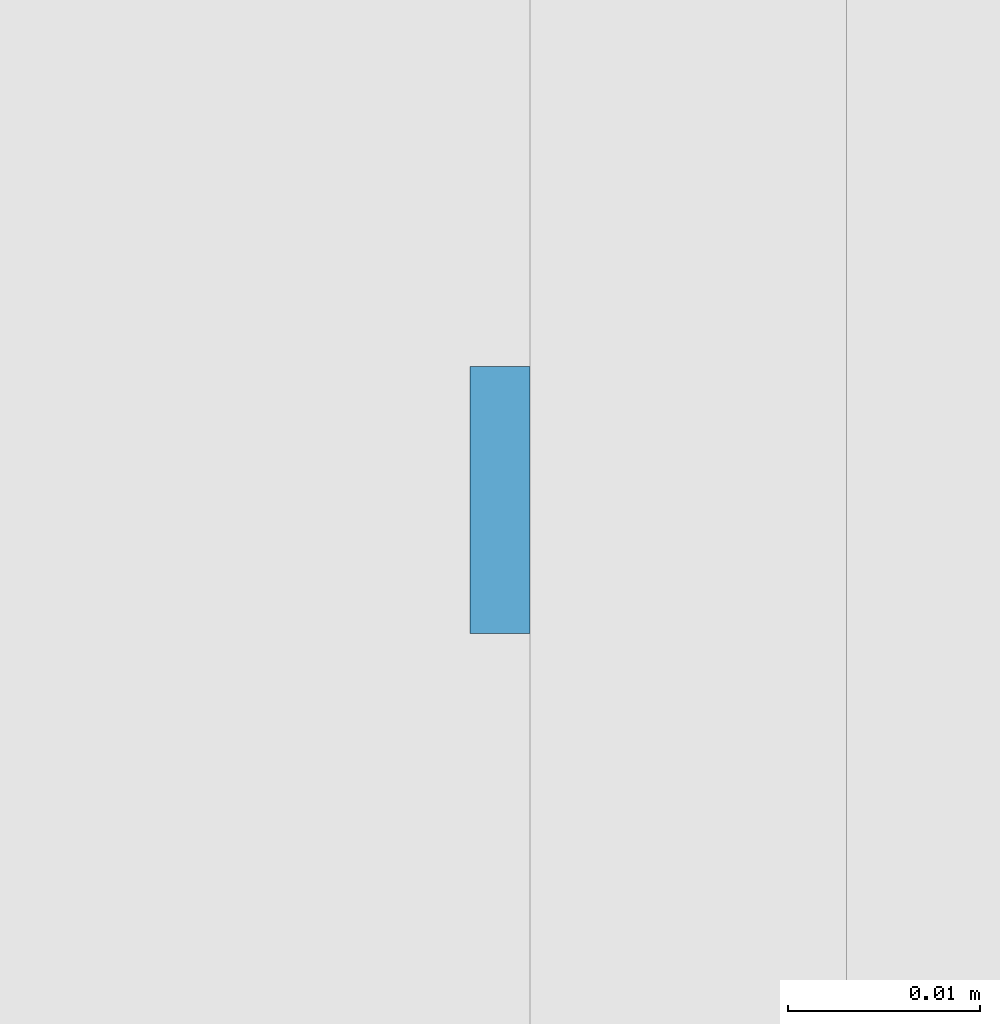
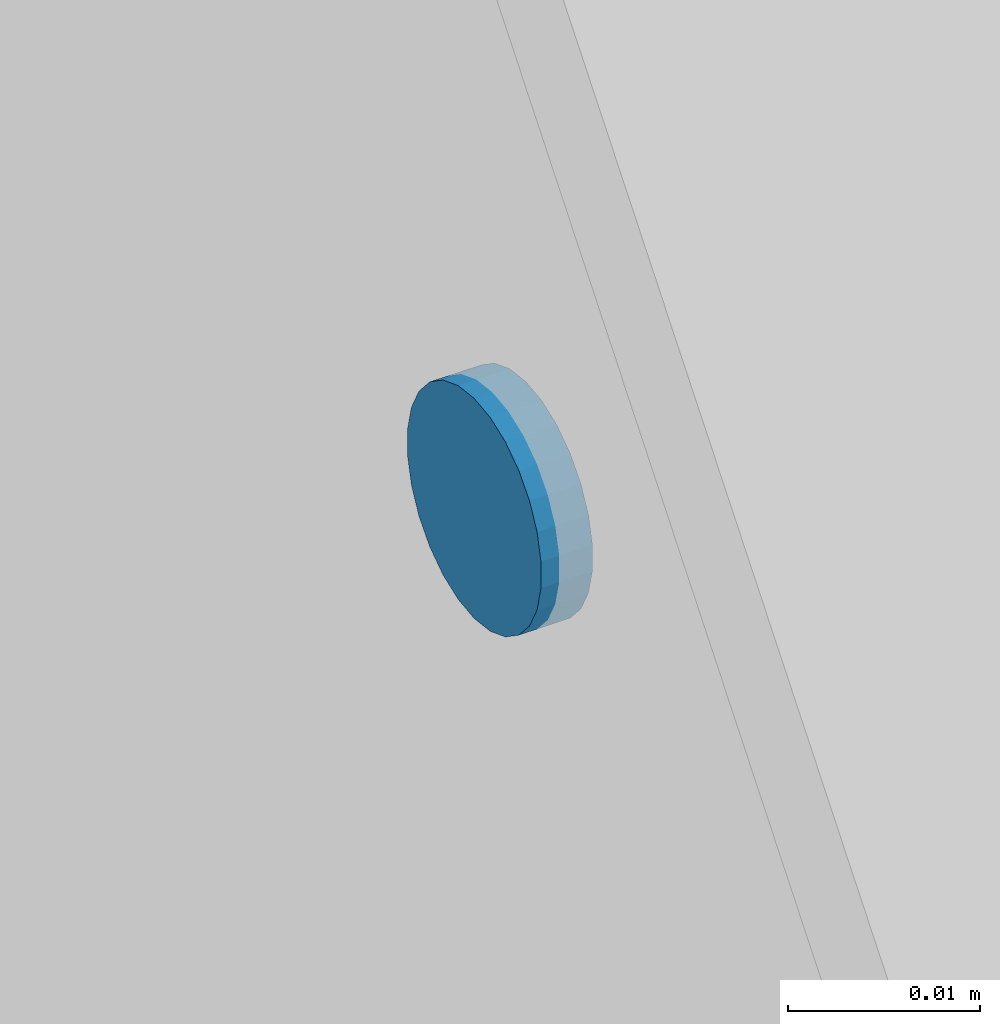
# One storey, part 252 of 362: 1 mechanical fastener.
"""IFC2X3 building model written with IfcOpenShell, lengths in millimetres."""

import ifcopenshell
import ifcopenshell.guid

model = None  # the IFC model being written
_history = None  # IfcOwnerHistory: only IFC2X3 demands one
_inside = {}  # id of a spatial element -> (the spatial element, [elements in it])
_under = {}  # id of a project, library or spatial element -> (it, [spatial elements below it])
_declared = {}  # id of a project -> (the project, [libraries it declares])
_typed = {}  # id of a type object -> (the type object, [elements of that type])
_made_of = {}  # id of a material, layer set ... -> (it, [elements and type objects made of it])


def new_model(schema):
    """Start an empty IFC model of exactly this schema.

    Asked for "IFC4X3", IfcOpenShell would pick the latest addendum, in which some entities
    have other attributes; the version numbers below select the first issue.
    IFC2X3 requires an IfcOwnerHistory on every rooted entity: one is made here for all.
    """
    global model, _history
    if schema == "IFC4X3":
        model = ifcopenshell.file(schema_version=(4, 3, 0, 0))
    else:
        model = ifcopenshell.file(schema=schema)
    _inside.clear()
    _under.clear()
    _declared.clear()
    _typed.clear()
    _made_of.clear()
    _history = None
    if model.schema == "IFC2X3":
        org = make("IfcOrganization", Name="unknown")
        user = make(
            "IfcPersonAndOrganization",
            ThePerson=make("IfcPerson", FamilyName="unknown"),
            TheOrganization=org,
        )
        app = make(
            "IfcApplication",
            ApplicationDeveloper=org,
            Version="unknown",
            ApplicationFullName="unknown",
            ApplicationIdentifier="unknown",
        )
        _history = make(
            "IfcOwnerHistory",
            OwningUser=user,
            OwningApplication=app,
            ChangeAction="ADDED",
            CreationDate=0,
        )
    return model


def make(cls, **values):
    """One entity of the class cls with the attributes given. An attribute that is None is left unset."""
    return model.create_entity(
        cls, **{name: value for name, value in values.items() if value is not None}
    )


def rooted(cls, **values):
    """An entity with a GlobalId (a new one), such as an element, a storey or a relation."""
    return make(cls, GlobalId=ifcopenshell.guid.new(), OwnerHistory=_history, **values)


def si_unit(unit_type, name, prefix=None):
    """IfcSIUnit, for example si_unit("LENGTHUNIT", "METRE", prefix="MILLI")."""
    return make("IfcSIUnit", UnitType=unit_type, Prefix=prefix, Name=name)


def assignment(units):
    """IfcUnitAssignment: the units of a project."""
    return None if units is None else make("IfcUnitAssignment", Units=units)


def point(xyz):
    """IfcCartesianPoint."""
    return None if xyz is None else make("IfcCartesianPoint", Coordinates=xyz)


def direction(xyz):
    """IfcDirection."""
    return None if xyz is None else make("IfcDirection", DirectionRatios=xyz)


def frame(location, z_axis=None, x_axis=None):
    """IfcAxis2Placement3D, a coordinate frame: its origin and axes. An axis left out is left unset."""
    return make(
        "IfcAxis2Placement3D",
        Location=point(location),
        Axis=direction(z_axis),
        RefDirection=direction(x_axis),
    )


def frame_2d(location, x_axis=None):
    """IfcAxis2Placement2D, a coordinate frame in the plane: its origin and x axis."""
    return make(
        "IfcAxis2Placement2D", Location=point(location), RefDirection=direction(x_axis)
    )


def origin_with_axes():
    """The frame at (0, 0, 0) with the z axis (0, 0, 1) and the x axis (1, 0, 0) written out."""
    return frame((0.0, 0.0, 0.0), z_axis=(0.0, 0.0, 1.0), x_axis=(1.0, 0.0, 0.0))


def origin_2d_with_axis():
    """The frame at (0, 0) in the plane with the x axis (1, 0) written out."""
    return frame_2d((0.0, 0.0), x_axis=(1.0, 0.0))


def place(relative_to, where):
    """IfcLocalPlacement: puts the frame where relative to a parent placement (None: the world)."""
    return make(
        "IfcLocalPlacement", PlacementRelTo=relative_to, RelativePlacement=where
    )


def context(
    kind, dimensions, precision=None, world=None, true_north=None, identifier=None
):
    """IfcGeometricRepresentationContext, for example the 3D "Model" context."""
    return make(
        "IfcGeometricRepresentationContext",
        ContextIdentifier=identifier,
        ContextType=kind,
        CoordinateSpaceDimension=dimensions,
        Precision=precision,
        WorldCoordinateSystem=world,
        TrueNorth=true_north,
    )


def subcontext(parent, identifier, kind, view, scale=None):
    """IfcGeometricRepresentationSubContext, for example "Body" below "Model"."""
    return make(
        "IfcGeometricRepresentationSubContext",
        ContextIdentifier=identifier,
        ContextType=kind,
        ParentContext=parent,
        TargetScale=scale,
        TargetView=view,
    )


def project(units=None, contexts=None):
    """IfcProject with its units and contexts."""
    return rooted(
        "IfcProject",
        Name="project",
        RepresentationContexts=contexts,
        UnitsInContext=assignment(units),
    )


def spatial(cls, under=None, at=None, **own):
    """A site, building, storey or space (cls), placed at a placement, below another one or the project."""
    s = rooted(cls, ObjectPlacement=at, **own)
    if under is not None:
        _under.setdefault(under.id(), (under, []))[1].append(s)
    return s


def profile(cls, at=None, kind="AREA", **sizes):
    """A parametric profile (cls). Its sizes go by their IFC names, for example OverallWidth=200.0."""
    return make(cls, ProfileType=kind, Position=at, **sizes)


def circle(**sizes):
    """IfcCircleProfileDef."""
    return profile("IfcCircleProfileDef", **sizes)


def extrude(swept, where, along, depth):
    """IfcExtrudedAreaSolid: the profile swept, set in the frame where, extruded along a direction by depth."""
    return make(
        "IfcExtrudedAreaSolid",
        SweptArea=swept,
        Position=where,
        ExtrudedDirection=direction(along),
        Depth=depth,
    )


def shape(context_of_items, identifier, shape_type, items):
    """IfcShapeRepresentation: the items that make up one representation, for example the "Body"."""
    return make(
        "IfcShapeRepresentation",
        ContextOfItems=context_of_items,
        RepresentationIdentifier=identifier,
        RepresentationType=shape_type,
        Items=items,
    )


def source(mapping_origin, context_of_items, identifier, shape_type, items):
    """IfcRepresentationMap: a shape defined once, which mapped items show again and again."""
    return make(
        "IfcRepresentationMap",
        MappingOrigin=mapping_origin,
        MappedRepresentation=shape(context_of_items, identifier, shape_type, items),
    )


def transform(
    local_origin,
    x_axis=None,
    y_axis=None,
    z_axis=None,
    scale=None,
    scale2=None,
    scale3=None,
    uniform=True,
):
    """IfcCartesianTransformationOperator3D, or its non-uniform kind. x_axis, y_axis, z_axis: its Axis1, 2, 3."""
    if uniform:
        return make(
            "IfcCartesianTransformationOperator3D",
            Axis1=direction(x_axis),
            Axis2=direction(y_axis),
            LocalOrigin=point(local_origin),
            Scale=scale,
            Axis3=direction(z_axis),
        )
    return make(
        "IfcCartesianTransformationOperator3DnonUniform",
        Axis1=direction(x_axis),
        Axis2=direction(y_axis),
        LocalOrigin=point(local_origin),
        Scale=scale,
        Axis3=direction(z_axis),
        Scale2=scale2,
        Scale3=scale3,
    )


def mapped(mapping_source, mapping_target):
    """IfcMappedItem: shows the shape of a source again, moved by a transform."""
    return make(
        "IfcMappedItem", MappingSource=mapping_source, MappingTarget=mapping_target
    )


def material(Name=None, Category=None):
    """IfcMaterial."""
    return make("IfcMaterial", Name=Name, Category=Category)


def made_of(thing, what):
    """Note that an element or type object is made of a material, layer set ...; save() writes the relation."""
    if what is not None:
        _made_of.setdefault(what.id(), (what, []))[1].append(thing)
    return thing


def type_object(cls, material=None, **own):
    """A type object (cls), such as IfcWallType, which elements share."""
    return made_of(rooted(cls, **own), material)


def element(
    cls,
    number,
    at=None,
    inside=None,
    cuts=None,
    type_object=None,
    material=None,
    context=None,
    identifier="Body",
    shape_type=None,
    held_by="IfcProductDefinitionShape",
    body=None,
    shapes=None,
    **own,
):
    """One element of the class cls, such as IfcWall. Its Tag is "e" and its number.

    at: its placement. inside: the storey or other place that contains it. cuts: it is an
    opening in that element (IfcRelVoidsElement). A single representation is given by context,
    identifier, shape_type and body (its items); several are given by shapes. held_by: the class
    of the entity that holds the representations. save() writes the other relations.
    """
    e = rooted(cls, Tag="e%d" % number, ObjectPlacement=at, **own)
    if body is not None:
        shapes = [shape(context, identifier, shape_type, body)]
    if shapes is not None:
        e.Representation = make(held_by, Representations=shapes)
    if inside is not None:
        _inside.setdefault(inside.id(), (inside, []))[1].append(e)
    if cuts is not None:
        rooted(
            "IfcRelVoidsElement", RelatingBuildingElement=cuts, RelatedOpeningElement=e
        )
    if type_object is not None:
        _typed.setdefault(type_object.id(), (type_object, []))[1].append(e)
    return made_of(e, material)


def aggregate(whole, parts):
    """IfcRelAggregates: a whole, such as a stair, and the parts it consists of."""
    return rooted("IfcRelAggregates", RelatingObject=whole, RelatedObjects=parts)


def save(model, path):
    """Write the relations noted so far, then the file.

    IfcRelAggregates (storeys below a building ...), IfcRelContainedInSpatialStructure (elements
    in a storey), IfcRelDefinesByType, IfcRelAssociatesMaterial and IfcRelDeclares: one each for
    every whole, place, type object, material and project.
    """
    for whole, parts in _under.values():
        aggregate(whole, parts)
    for where, things in _inside.values():
        rooted(
            "IfcRelContainedInSpatialStructure",
            RelatedElements=things,
            RelatingStructure=where,
        )
    for kind, things in _typed.values():
        rooted("IfcRelDefinesByType", RelatedObjects=things, RelatingType=kind)
    for what, things in _made_of.values():
        rooted("IfcRelAssociatesMaterial", RelatedObjects=things, RelatingMaterial=what)
    for by, libraries in _declared.values():
        rooted("IfcRelDeclares", RelatingContext=by, RelatedDefinitions=libraries)
    model.write(path)


model = new_model("IFC2X3")

# Units and contexts
model_context = context("Model", 3, precision=1e-05, world=origin_with_axes())
body_context = subcontext(model_context, "Body", "Model", "MODEL_VIEW")
ifc_project = project(units=[si_unit("LENGTHUNIT", "METRE", prefix="MILLI"), si_unit("AREAUNIT", "SQUARE_METRE"), si_unit("VOLUMEUNIT", "CUBIC_METRE"), si_unit("MASSUNIT", "GRAM", prefix="KILO"), si_unit("TIMEUNIT", "SECOND"), si_unit("PLANEANGLEUNIT", "RADIAN"), si_unit("SOLIDANGLEUNIT", "STERADIAN"), si_unit("THERMODYNAMICTEMPERATUREUNIT", "DEGREE_CELSIUS"), si_unit("LUMINOUSINTENSITYUNIT", "LUMEN")], contexts=[model_context])

# Site, building, storey
site_placement = place(None, origin_with_axes())
site = spatial("IfcSite", under=ifc_project, at=site_placement, Name="Undefined", CompositionType="ELEMENT")
building_placement = place(site_placement, origin_with_axes())
building = spatial("IfcBuilding", under=site, at=building_placement, Name="Undefined", CompositionType="ELEMENT")
storey_placement = place(building_placement, origin_with_axes())
storey = spatial("IfcBuildingStorey", under=building, at=storey_placement, Name="Undefined", CompositionType="ELEMENT", Elevation=0.0)

# Mechanical fastener
ifc_material = material(Name="6.8")
mechanical_fastener_type = type_object("IfcMechanicalFastenerType", Name="Bolt assembly")
shared_shape = source(origin_with_axes(), body_context, "Body", "SweptSolid", [
    extrude(circle(Radius=7.0, at=origin_2d_with_axis()), frame((0.0, 0.0, 0.0), z_axis=(0.0, 1.0, 0.0), x_axis=(1.0, 0.0, 0.0)), (0.0, 0.0, 1.0), 3.1),
])
mechanical_fastener_placement = place(storey_placement, frame((12613.4999989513, 13299.999997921, 12543.8320725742), z_axis=(0.0, -1.0, 0.0), x_axis=(0.0, 0.0, 1.0)))
element("IfcMechanicalFastener", 1, at=mechanical_fastener_placement, inside=storey, type_object=mechanical_fastener_type, material=ifc_material, Name="Bolt assembly", NominalDiameter=12.0, NominalLength=3.0, context=body_context, shape_type="MappedRepresentation", body=[
    mapped(shared_shape, transform((0.0, 0.0, 0.0))),
])

save(model, "model.ifc")
